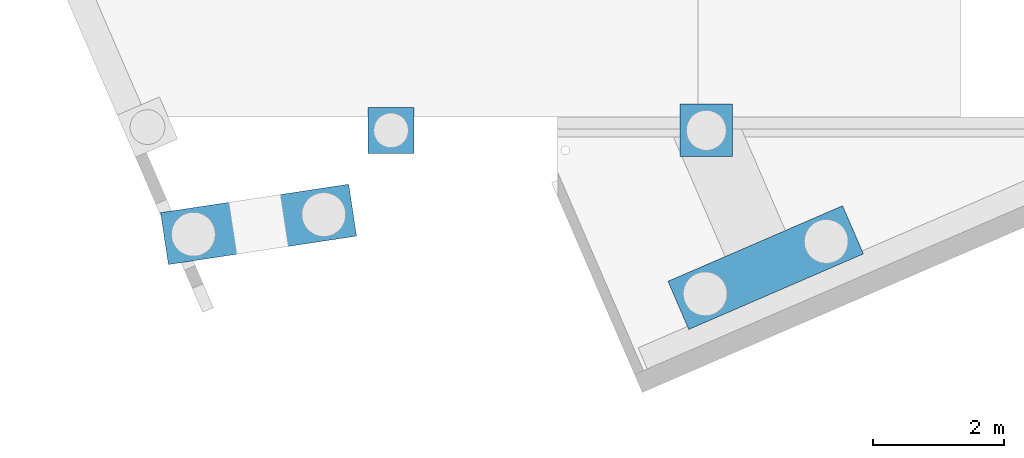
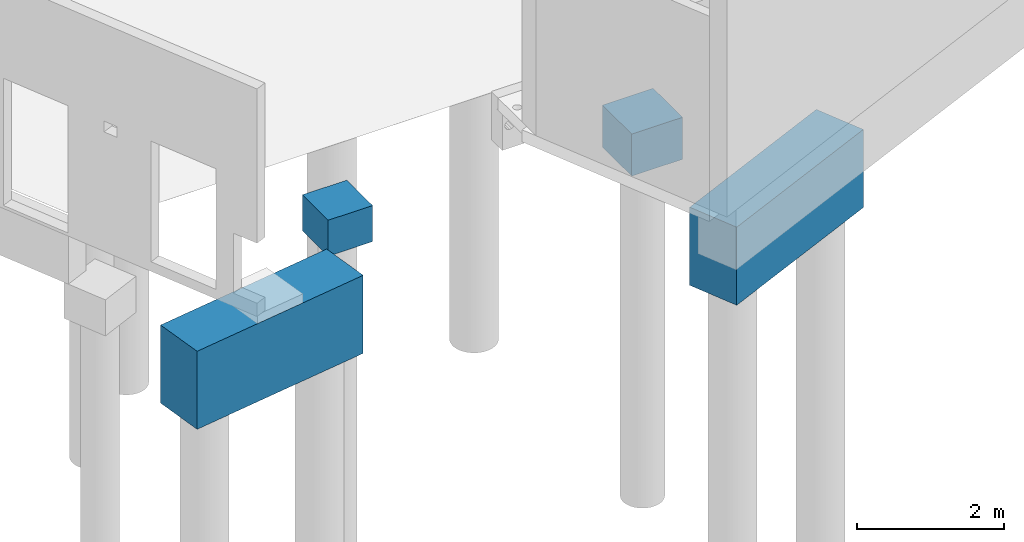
# One storey, part 9 of 29: 4 slabs.
"""IFC2X3 building model written with IfcOpenShell, lengths in centimetres."""

from ifc_helpers import new_model, entity, si_unit, converted_unit, derived_unit, direction, frame, origin, place, context, subcontext, project, spatial, faceted_brep, material, element, save


model = new_model("IFC2X3")

# Units and contexts
model_context = context("Model", 3, precision=0.001, world=origin(), true_north=direction((6.12303176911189e-17, 1.0)))
body_context = subcontext(model_context, "Body", "Model", "MODEL_VIEW")
ifc_project = project(units=[si_unit("LENGTHUNIT", "METRE", prefix="CENTI"), si_unit("AREAUNIT", "SQUARE_METRE"), si_unit("VOLUMEUNIT", "CUBIC_METRE"), converted_unit("PLANEANGLEUNIT", "DEGREE", entity("IfcRatioMeasure", 0.0174532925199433), si_unit("PLANEANGLEUNIT", "RADIAN"), dimensions=[0, 0, 0, 0, 0, 0, 0]), si_unit("MASSUNIT", "GRAM", prefix="KILO"), derived_unit("MASSDENSITYUNIT", [(si_unit("MASSUNIT", "GRAM", prefix="KILO"), 1), (si_unit("LENGTHUNIT", "METRE"), -3)]), si_unit("TIMEUNIT", "SECOND"), si_unit("FREQUENCYUNIT", "HERTZ"), si_unit("THERMODYNAMICTEMPERATUREUNIT", "DEGREE_CELSIUS"), derived_unit("THERMALTRANSMITTANCEUNIT", [(si_unit("MASSUNIT", "GRAM", prefix="KILO"), 1), (si_unit("THERMODYNAMICTEMPERATUREUNIT", "KELVIN"), -1), (si_unit("TIMEUNIT", "SECOND"), -3)]), derived_unit("VOLUMETRICFLOWRATEUNIT", [(si_unit("LENGTHUNIT", "METRE"), 3), (si_unit("TIMEUNIT", "SECOND"), -1)]), si_unit("ELECTRICCURRENTUNIT", "AMPERE"), si_unit("ELECTRICVOLTAGEUNIT", "VOLT"), si_unit("POWERUNIT", "WATT"), si_unit("FORCEUNIT", "NEWTON"), si_unit("ILLUMINANCEUNIT", "LUX"), si_unit("LUMINOUSFLUXUNIT", "LUMEN"), si_unit("LUMINOUSINTENSITYUNIT", "CANDELA"), derived_unit("USERDEFINED", [(si_unit("MASSUNIT", "GRAM", prefix="KILO"), -1), (si_unit("LENGTHUNIT", "METRE"), -2), (si_unit("TIMEUNIT", "SECOND"), 3), (si_unit("LUMINOUSFLUXUNIT", "LUMEN"), 1)]), derived_unit("LINEARVELOCITYUNIT", [(si_unit("LENGTHUNIT", "METRE"), 1), (si_unit("TIMEUNIT", "SECOND"), -1)]), si_unit("PRESSUREUNIT", "PASCAL"), derived_unit("USERDEFINED", [(si_unit("LENGTHUNIT", "METRE"), -2), (si_unit("MASSUNIT", "GRAM", prefix="KILO"), 1), (si_unit("TIMEUNIT", "SECOND"), -2)])], contexts=[model_context])

# Site, building, storey
site_placement = place(None, origin())
site = spatial("IfcSite", under=ifc_project, at=site_placement, Name="Default", CompositionType="ELEMENT")
building_placement = place(site_placement, origin())
building = spatial("IfcBuilding", under=site, at=building_placement, Name="CAGE 03", CompositionType="ELEMENT")
storey_placement = place(building_placement, frame((0.0, 0.0, -34.0)))
storey = spatial("IfcBuildingStorey", under=building, at=storey_placement, Name="+3.66", CompositionType="ELEMENT", Elevation=-34.0000000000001)

# Slabs
ifc_material = material(Name="Béton, C25/30")
slab_1_placement = place(storey_placement, frame((3333.1028982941, 3607.1249269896, -219.0)))
element("IfcSlab", 1, at=slab_1_placement, inside=storey, material=ifc_material, Name="M_Base-Rectangulaire:290x80x130ht", ObjectType="M_Base-Rectangulaire:290x80x130ht", PredefinedType="BASESLAB", context=body_context, shape_type="Brep", body=[
    faceted_brep([(103.819245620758, 94.8027417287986, 130.0), (0.0, 79.1003776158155, 130.0), (11.9637059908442, 0.0, 130.0), (115.782951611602, 15.7023641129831, 130.0), (194.883329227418, 27.6660701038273, 130.0), (298.702574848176, 43.3684342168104, 130.0), (286.738868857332, 122.468811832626, 130.0), (182.919623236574, 106.766447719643, 130.0), (11.9637059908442, 0.0, 0.0), (17.461699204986, 38.1603383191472, 0.0), (20.9384530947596, 33.208132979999, 0.0), (0.0, 79.1003776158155, 0.0), (24.4152069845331, 28.2559276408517, 0.0), (27.8919608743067, 23.3037223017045, 0.0), (31.3687147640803, 18.3515169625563, 0.0), (37.2743460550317, 17.0340670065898, 0.0), (43.1799773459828, 15.7166170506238, 0.0), (49.0856086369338, 14.3991670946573, 0.0), (54.9912399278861, 13.0817171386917, 0.0), (298.702574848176, 43.3684342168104, 0.0), (19.0873089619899, 45.4473337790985, 0.0), (20.7129187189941, 52.7343292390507, 0.0), (22.3385284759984, 60.0213246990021, 0.0), (23.9641382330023, 67.3083201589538, 0.0), (29.2160127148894, 70.3133109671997, 0.0), (34.4678871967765, 73.3183017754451, 0.0), (39.7197616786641, 76.3232925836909, 0.0), (44.9716361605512, 79.3282833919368, 0.0), (286.738868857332, 122.468811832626, 0.0), (82.5011768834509, 54.2496622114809, 0.0), (79.0244229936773, 59.2018675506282, 0.0), (75.5476691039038, 64.1540728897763, 0.0), (72.0709152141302, 69.1062782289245, 0.0), (68.5941613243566, 74.0584835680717, 0.0), (62.6885300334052, 75.3759335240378, 0.0), (56.7828987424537, 76.6933834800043, 0.0), (50.8772674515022, 78.0108334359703, 0.0), (60.2431144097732, 16.0867079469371, 0.0), (65.4949888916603, 19.091698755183, 0.0), (70.7468633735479, 22.0966895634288, 0.0), (75.998737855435, 25.1016803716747, 0.0), (77.6243476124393, 32.388675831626, 0.0), (79.2499573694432, 39.6756712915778, 0.0), (80.8755671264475, 46.9626667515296, 0.0), (31.3687147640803, 18.3515169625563, 5.0), (27.6608377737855, 24.8318377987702, 5.0), (23.9529607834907, 31.3121586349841, 5.0), (20.2450837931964, 37.7924794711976, 5.0), (16.5372068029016, 44.272800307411, 5.0), (18.3939396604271, 50.0316802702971, 5.0), (20.2506725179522, 55.7905602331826, 5.0), (22.1074053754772, 61.5494401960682, 5.0), (23.9641382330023, 67.3083201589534, 5.0), (29.2160127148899, 70.3133109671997, 5.0), (34.4678871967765, 73.3183017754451, 5.0), (38.1946207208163, 75.4506451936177, 5.0), (44.9716361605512, 79.3282833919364, 5.0), (52.5922589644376, 77.6282468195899, 5.0), (56.7828987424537, 76.6933834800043, 5.0), (62.6885300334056, 75.3759335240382, 5.0), (68.5941613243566, 74.0584835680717, 5.0), (72.302038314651, 67.5781627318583, 5.0), (76.0099153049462, 61.0978418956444, 5.0), (79.7177922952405, 54.6175210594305, 5.0), (83.4256692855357, 48.137200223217, 5.0), (81.5689364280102, 42.378320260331, 5.0), (79.7122035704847, 36.6194402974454, 5.0), (77.8554707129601, 30.8605603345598, 5.0), (75.998737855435, 25.1016803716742, 5.0), (70.7468633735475, 22.0966895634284, 5.0), (65.4949888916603, 19.091698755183, 5.0), (61.7682553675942, 16.9593553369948, 5.0), (54.9912399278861, 13.0817171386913, 5.0), (47.3706171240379, 14.7817537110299, 5.0), (43.1799773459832, 15.7166170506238, 5.0), (37.2743460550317, 17.0340670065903, 5.0)], [[[0, 1, 2, 3, 4, 5, 6, 7]], [[8, 9, 10]], [[9, 8, 11]], [[8, 10, 12]], [[8, 12, 13]], [[8, 13, 14]], [[8, 14, 15]], [[8, 15, 16]], [[8, 16, 17]], [[8, 17, 18]], [[18, 19, 8]], [[11, 20, 9]], [[11, 21, 20]], [[11, 22, 21]], [[11, 23, 22]], [[11, 24, 23]], [[11, 25, 24]], [[11, 26, 25]], [[11, 27, 26]], [[27, 11, 28]], [[29, 28, 19]], [[28, 29, 30]], [[28, 30, 31]], [[28, 31, 32]], [[28, 32, 33]], [[28, 33, 34]], [[28, 34, 35]], [[28, 35, 36]], [[28, 36, 27]], [[19, 18, 37]], [[19, 37, 38]], [[19, 38, 39]], [[19, 39, 40]], [[19, 40, 41]], [[19, 41, 42]], [[19, 42, 43]], [[19, 43, 29]], [[2, 1, 11, 8]], [[5, 4, 3, 2, 8, 19]], [[6, 5, 19, 28]], [[1, 0, 7, 6, 28, 11]], [[44, 45, 46, 47, 48, 49, 50, 51, 52, 53, 54, 55, 56, 57, 58, 59, 60, 61, 62, 63, 64, 65, 66, 67, 68, 69, 70, 71, 72, 73, 74, 75]], [[26, 27, 56, 55, 54, 53, 52, 23, 24, 25]], [[17, 16, 15, 14, 44, 75, 74, 73, 72, 18]], [[52, 51, 23]], [[51, 50, 22]], [[14, 13, 44]], [[46, 10, 47]], [[13, 45, 44]], [[9, 20, 48]], [[21, 22, 50]], [[51, 22, 23]], [[13, 12, 45]], [[45, 12, 46]], [[21, 49, 20]], [[9, 47, 10]], [[46, 12, 10]], [[48, 20, 49]], [[21, 50, 49]], [[9, 48, 47]], [[37, 18, 72, 71, 70, 69, 68, 40, 39, 38]], [[36, 35, 34, 33, 60, 59, 58, 57, 56, 27]], [[68, 67, 40]], [[67, 66, 41]], [[33, 32, 60]], [[62, 30, 63]], [[32, 61, 60]], [[29, 43, 64]], [[42, 41, 66]], [[67, 41, 40]], [[32, 31, 61]], [[61, 31, 62]], [[42, 65, 43]], [[29, 63, 30]], [[62, 31, 30]], [[64, 43, 65]], [[42, 66, 65]], [[29, 64, 63]]]),
])
slab_2_placement = place(storey_placement, frame((3649.36582014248, 3776.66066607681, -140.0)))
element("IfcSlab", 2, at=slab_2_placement, inside=storey, material=ifc_material, Name="M_Base-Rectangulaire:70x70x60ht", ObjectType="M_Base-Rectangulaire:70x70x60ht", PredefinedType="BASESLAB", context=body_context, shape_type="Brep", body=[
    faceted_brep([(70.0, 70.0, 60.0), (0.0, 70.0, 60.0), (0.0, 55.0, 60.0), (0.0, 25.0, 60.0), (0.0, 0.0, 60.0), (70.0, 0.0, 60.0), (0.0, 0.0, 0.0), (8.50000000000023, 35.0, 0.0), (10.6920097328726, 30.0766655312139, 0.0), (0.0, 70.0, 0.0), (12.8840194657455, 25.1533310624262, 0.0), (15.0760291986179, 20.2299965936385, 0.0), (17.2680389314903, 15.3066621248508, 0.0), (22.3935302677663, 13.6412890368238, 0.0), (27.5190216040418, 11.9759159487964, 0.0), (32.6445129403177, 10.3105428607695, 0.0), (37.7700042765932, 8.64516977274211, 0.0), (70.0, 0.0, 0.0), (11.0305248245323, 42.7881545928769, 0.0), (13.5610496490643, 50.5763091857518, 0.0), (18.2282861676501, 53.2709394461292, 0.0), (22.8955226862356, 55.9655697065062, 0.0), (27.5627592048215, 58.6601999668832, 0.0), (32.2299957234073, 61.3548302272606, 0.0), (70.0, 70.0, 0.0), (61.5000000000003, 35.0, 0.0), (59.3079902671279, 39.9233344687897, 0.0), (57.1159805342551, 44.846668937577, 0.0), (54.9239708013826, 49.7700034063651, 0.0), (52.7319610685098, 54.6933378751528, 0.0), (47.6064697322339, 56.3587109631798, 0.0), (42.4809783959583, 58.0240840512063, 0.0), (37.3554870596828, 59.6894571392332, 0.0), (42.4372407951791, 11.3398000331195, 0.0), (47.104477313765, 14.0344302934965, 0.0), (51.7717138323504, 16.7290605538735, 0.0), (56.4389503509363, 19.4236908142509, 0.0), (58.9694751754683, 27.2118454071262, 0.0), (8.50000000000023, 35.0, 5.0), (10.6920097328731, 39.9233344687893, 5.0), (12.8840194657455, 44.846668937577, 5.0), (15.0760291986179, 49.7700034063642, 5.0), (17.2680389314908, 54.6933378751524, 5.0), (22.3935302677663, 56.3587109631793, 5.0), (27.5190216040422, 58.0240840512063, 5.0), (32.6445129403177, 59.6894571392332, 5.0), (37.7700042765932, 61.3548302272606, 5.0), (42.4372407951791, 58.6601999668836, 5.0), (47.104477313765, 55.9655697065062, 5.0), (51.7717138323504, 53.2709394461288, 5.0), (56.4389503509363, 50.5763091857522, 5.0), (58.9694751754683, 42.7881545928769, 5.0), (61.5000000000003, 35.0, 5.0), (59.3079902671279, 30.0766655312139, 5.0), (57.1159805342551, 25.1533310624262, 5.0), (54.9239708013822, 20.2299965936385, 5.0), (52.7319610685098, 15.3066621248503, 5.0), (47.6064697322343, 13.6412890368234, 5.0), (42.4809783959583, 11.9759159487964, 5.0), (37.3554870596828, 10.3105428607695, 5.0), (32.2299957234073, 8.64516977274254, 5.0), (27.5627592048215, 11.33980003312, 5.0), (22.8955226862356, 14.0344302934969, 5.0), (18.2282861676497, 16.7290605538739, 5.0), (13.5610496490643, 19.4236908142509, 5.0), (11.0305248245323, 27.2118454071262, 5.0)], [[[0, 1, 2, 3, 4, 5]], [[6, 7, 8]], [[7, 6, 9]], [[6, 8, 10]], [[6, 10, 11]], [[6, 11, 12]], [[6, 12, 13]], [[6, 13, 14]], [[6, 14, 15]], [[6, 15, 16]], [[16, 17, 6]], [[9, 18, 7]], [[9, 19, 18]], [[9, 20, 19]], [[9, 21, 20]], [[9, 22, 21]], [[9, 23, 22]], [[23, 9, 24]], [[25, 24, 17]], [[24, 25, 26]], [[24, 26, 27]], [[24, 27, 28]], [[24, 28, 29]], [[24, 29, 30]], [[24, 30, 31]], [[24, 31, 32]], [[24, 32, 23]], [[17, 16, 33]], [[17, 33, 34]], [[17, 34, 35]], [[17, 35, 36]], [[17, 36, 37]], [[17, 37, 25]], [[2, 1, 9, 6, 4, 3]], [[5, 4, 6, 17]], [[0, 5, 17, 24]], [[1, 0, 24, 9]], [[38, 39, 40, 41, 42, 43, 44, 45, 46, 47, 48, 49, 50, 51, 52, 53, 54, 55, 56, 57, 58, 59, 60, 61, 62, 63, 64, 65]], [[11, 10, 64]], [[65, 8, 38]], [[65, 64, 10]], [[64, 63, 11]], [[37, 36, 54]], [[61, 60, 14]], [[38, 8, 7]], [[34, 57, 35]], [[13, 12, 62]], [[36, 35, 56]], [[37, 53, 25]], [[14, 60, 15]], [[62, 12, 63]], [[10, 8, 65]], [[59, 15, 60]], [[63, 12, 11]], [[58, 57, 34]], [[13, 61, 14]], [[56, 35, 57]], [[55, 54, 36, 56]], [[59, 16, 15]], [[33, 16, 58, 34]], [[13, 62, 61]], [[52, 25, 53]], [[59, 58, 16]], [[37, 54, 53]], [[28, 27, 50]], [[51, 26, 52]], [[51, 50, 27]], [[50, 49, 28]], [[48, 29, 49]], [[47, 30, 48]], [[52, 26, 25]], [[23, 45, 22]], [[47, 46, 31]], [[41, 40, 19, 42]], [[18, 39, 7]], [[31, 46, 32]], [[27, 26, 51]], [[45, 23, 32]], [[49, 29, 28]], [[44, 43, 21]], [[30, 29, 48]], [[18, 19, 40]], [[47, 31, 30]], [[38, 7, 39]], [[44, 22, 45]], [[42, 20, 43]], [[21, 43, 20]], [[42, 19, 20]], [[45, 32, 46]], [[44, 21, 22]], [[18, 40, 39]]]),
])
slab_3_placement = place(storey_placement, frame((4124.86582014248, 3771.66066607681, -170.0)))
element("IfcSlab", 3, at=slab_3_placement, inside=storey, material=ifc_material, Name="M_Base-Rectangulaire:80x80x70ht", ObjectType="M_Base-Rectangulaire:80x80x70ht", PredefinedType="BASESLAB", context=body_context, shape_type="Brep", body=[
    faceted_brep([(80.0, 80.0, 70.0), (0.0, 80.0, 70.0), (0.0, 0.0, 70.0), (80.0, 0.0, 70.0), (0.0, 0.0, 0.0), (9.50000000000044, 40.0, 0.0), (11.7333107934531, 34.6083107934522, 0.0), (0.0, 80.0, 0.0), (13.9666215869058, 29.2166215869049, 0.0), (16.1999323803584, 23.8249323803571, 0.0), (18.4332431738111, 18.4332431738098, 0.0), (23.824932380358, 16.1999323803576, 0.0), (29.2166215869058, 13.9666215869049, 0.0), (34.6083107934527, 11.7333107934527, 0.0), (40.0, 9.49999999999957, 0.0), (80.0, 0.0, 0.0), (11.7333107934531, 45.3916892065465, 0.0), (13.9666215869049, 50.7833784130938, 0.0), (16.1999323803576, 56.1750676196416, 0.0), (18.4332431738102, 61.5667568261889, 0.0), (23.824932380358, 63.8000676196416, 0.0), (29.2166215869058, 66.0333784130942, 0.0), (34.6083107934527, 68.2666892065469, 0.0), (40.0, 70.4999999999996, 0.0), (80.0, 80.0, 0.0), (70.5000000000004, 40.0, 0.0), (68.2666892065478, 45.3916892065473, 0.0), (66.0333784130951, 50.7833784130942, 0.0), (63.8000676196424, 56.1750676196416, 0.0), (61.5667568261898, 61.5667568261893, 0.0), (56.175067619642, 63.8000676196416, 0.0), (50.7833784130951, 66.0333784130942, 0.0), (45.3916892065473, 68.2666892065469, 0.0), (45.3916892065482, 11.7333107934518, 0.0), (50.7833784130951, 13.9666215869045, 0.0), (56.175067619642, 16.1999323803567, 0.0), (61.5667568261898, 18.4332431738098, 0.0), (63.8000676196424, 23.8249323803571, 0.0), (66.0333784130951, 29.2166215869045, 0.0), (68.2666892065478, 34.6083107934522, 0.0), (40.0, 70.4999999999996, 5.0), (45.3916892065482, 68.2666892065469, 5.0), (50.7833784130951, 66.0333784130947, 5.0), (56.1750676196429, 63.800067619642, 5.0), (61.5667568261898, 61.5667568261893, 5.0), (64.8147856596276, 53.7253215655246, 5.0), (67.657392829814, 46.8626607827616, 5.0), (70.5000000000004, 40.0, 5.0), (67.657392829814, 33.1373392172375, 5.0), (66.0333784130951, 29.2166215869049, 5.0), (63.8000676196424, 23.8249323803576, 5.0), (61.5667568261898, 18.4332431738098, 5.0), (56.175067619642, 16.1999323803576, 5.0), (50.7833784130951, 13.9666215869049, 5.0), (45.3916892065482, 11.7333107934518, 5.0), (40.0, 9.49999999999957, 5.0), (34.6083107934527, 11.7333107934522, 5.0), (29.2166215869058, 13.9666215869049, 5.0), (23.8249323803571, 16.1999323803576, 5.0), (18.4332431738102, 18.4332431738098, 5.0), (15.1852143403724, 26.2746784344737, 5.0), (12.3426071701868, 33.1373392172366, 5.0), (9.50000000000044, 40.0, 5.0), (12.3426071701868, 46.8626607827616, 5.0), (13.9666215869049, 50.7833784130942, 5.0), (16.1999323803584, 56.175067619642, 5.0), (18.4332431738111, 61.5667568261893, 5.0), (23.824932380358, 63.8000676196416, 5.0), (29.2166215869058, 66.0333784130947, 5.0), (34.6083107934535, 68.2666892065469, 5.0)], [[[0, 1, 2, 3]], [[4, 5, 6]], [[5, 4, 7]], [[4, 6, 8]], [[4, 8, 9]], [[4, 9, 10]], [[4, 10, 11]], [[4, 11, 12]], [[4, 12, 13]], [[4, 13, 14]], [[14, 15, 4]], [[7, 16, 5]], [[7, 17, 16]], [[7, 18, 17]], [[7, 19, 18]], [[7, 20, 19]], [[7, 21, 20]], [[7, 22, 21]], [[7, 23, 22]], [[23, 7, 24]], [[25, 24, 15]], [[24, 25, 26]], [[24, 26, 27]], [[24, 27, 28]], [[24, 28, 29]], [[24, 29, 30]], [[24, 30, 31]], [[24, 31, 32]], [[24, 32, 23]], [[15, 14, 33]], [[15, 33, 34]], [[15, 34, 35]], [[15, 35, 36]], [[15, 36, 37]], [[15, 37, 38]], [[15, 38, 39]], [[15, 39, 25]], [[2, 1, 7, 4]], [[3, 2, 4, 15]], [[0, 3, 15, 24]], [[1, 0, 24, 7]], [[40, 41, 42, 43, 44, 45, 46, 47, 48, 49, 50, 51, 52, 53, 54, 55, 56, 57, 58, 59, 60, 61, 62, 63, 64, 65, 66, 67, 68, 69]], [[10, 59, 58, 57, 56, 55, 14, 13, 12, 11]], [[39, 38, 37, 36, 51, 50, 49, 48, 47, 25]], [[10, 9, 8, 6, 5, 62, 61, 60, 59]], [[33, 14, 55, 54, 53, 52, 51, 36, 35, 34]], [[29, 44, 43, 42, 41, 40, 23, 32, 31, 30]], [[16, 17, 18, 19, 66, 65, 64, 63, 62, 5]], [[29, 28, 27, 26, 25, 47, 46, 45, 44]], [[22, 23, 40, 69, 68, 67, 66, 19, 20, 21]]]),
])
slab_4_placement = place(storey_placement, frame((4106.41364435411, 3508.18909242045, -230.0)))
element("IfcSlab", 4, at=slab_4_placement, inside=storey, material=ifc_material, Name="M_Base-Rectangulaire:290x80x130ht", ObjectType="M_Base-Rectangulaire:290x80x130ht", PredefinedType="BASESLAB", context=body_context, shape_type="Brep", body=[
    faceted_brep([(266.154070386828, 188.582616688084, 130.0), (0.0, 73.4218125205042, 130.0), (31.7684977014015, 0.0, 130.0), (297.922568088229, 115.16080416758, 130.0), (31.7684977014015, 0.0, 0.0), (72.8082681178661, 24.9953548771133, 0.0), (297.922568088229, 115.16080416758, 0.0), (65.3477589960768, 24.7060219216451, 0.0), (57.8872498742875, 24.4166889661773, 0.0), (50.4267407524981, 24.1273560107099, 0.0), (42.9662316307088, 23.8380230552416, 0.0), (38.7196107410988, 28.1482859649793, 0.0), (34.472989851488, 32.4585488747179, 0.0), (30.226368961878, 36.7688117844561, 0.0), (25.979748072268, 41.0790746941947, 0.0), (0.0, 73.4218125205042, 0.0), (25.7452627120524, 47.125327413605, 0.0), (25.5107773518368, 53.1715801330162, 0.0), (25.2762919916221, 59.2178328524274, 0.0), (25.0418066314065, 65.2640855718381, 0.0), (28.9418539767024, 69.8902920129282, 0.0), (32.8419013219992, 74.5164984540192, 0.0), (36.7419486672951, 79.1427048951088, 0.0), (40.6419960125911, 83.7689113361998, 0.0), (225.114299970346, 163.587261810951, 0.0), (266.154070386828, 188.582616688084, 0.0), (271.942820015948, 147.503541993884, 0.0), (267.696199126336, 151.813804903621, 0.0), (232.574809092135, 163.876594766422, 0.0), (240.035318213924, 164.165927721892, 0.0), (247.495827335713, 164.455260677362, 0.0), (254.956336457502, 164.744593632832, 0.0), (263.449578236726, 156.124067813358, 0.0), (259.202957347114, 160.434330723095, 0.0), (48.1025051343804, 84.0582442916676, 0.0), (55.5630142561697, 84.3475772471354, 0.0), (63.0235233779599, 84.6369102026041, 0.0), (70.4840324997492, 84.926243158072, 0.0), (221.214252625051, 158.96105536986, 0.0), (217.314205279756, 154.334848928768, 0.0), (213.414157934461, 149.708642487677, 0.0), (209.514110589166, 145.082436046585, 0.0), (74.7306533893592, 80.6159802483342, 0.0), (78.9772742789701, 76.3057173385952, 0.0), (83.22389516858, 71.9954544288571, 0.0), (87.47051605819, 67.6851915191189, 0.0), (209.748595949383, 139.036183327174, 0.0), (209.983081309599, 132.989930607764, 0.0), (210.217566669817, 126.943677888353, 0.0), (210.452052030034, 120.897425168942, 0.0), (214.698672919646, 116.587162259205, 0.0), (218.945293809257, 112.276899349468, 0.0), (223.191914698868, 107.96663643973, 0.0), (227.43853558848, 103.656373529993, 0.0), (76.7083154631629, 29.6215613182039, 0.0), (234.899044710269, 103.945706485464, 0.0), (87.7050014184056, 61.6389387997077, 0.0), (87.9394867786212, 55.5926860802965, 0.0), (88.173972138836, 49.5464333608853, 0.0), (88.4084574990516, 43.500180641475, 0.0), (80.6083628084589, 34.247767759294, 0.0), (84.5084101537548, 38.8739742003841, 0.0), (242.359553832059, 104.235039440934, 0.0), (249.820062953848, 104.524372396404, 0.0), (257.280572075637, 104.813705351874, 0.0), (261.180619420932, 109.439911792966, 0.0), (265.080666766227, 114.066118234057, 0.0), (268.980714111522, 118.692324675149, 0.0), (272.880761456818, 123.31853111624, 0.0), (272.6462760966, 129.364783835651, 0.0), (272.411790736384, 135.411036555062, 0.0), (272.177305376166, 141.457289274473, 0.0), (88.4084574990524, 43.500180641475, 5.0), (83.089997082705, 38.2602485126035, 5.0), (77.7715366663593, 33.020316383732, 5.0), (72.4530762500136, 27.78038425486, 5.0), (67.1346158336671, 22.5404521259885, 5.0), (61.0925197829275, 22.8648448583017, 5.0), (55.0504237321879, 23.1892375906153, 5.0), (49.0083276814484, 23.5136303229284, 5.0), (42.9662316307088, 23.8380230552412, 5.0), (38.719610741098, 28.1482859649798, 5.0), (34.472989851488, 32.4585488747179, 5.0), (31.4595849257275, 35.517114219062, 5.0), (25.979748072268, 41.0790746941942, 5.0), (25.6771683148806, 48.8811552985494, 5.0), (25.5107773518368, 53.1715801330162, 5.0), (25.2762919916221, 59.2178328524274, 5.0), (25.0418066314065, 65.2640855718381, 5.0), (30.360267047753, 70.5040177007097, 5.0), (35.6787274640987, 75.7439498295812, 5.0), (40.9971878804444, 80.9838819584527, 5.0), (46.315648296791, 86.2238140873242, 5.0), (52.3577443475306, 85.8994213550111, 5.0), (58.3998403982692, 85.5750286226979, 5.0), (64.4419364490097, 85.2506358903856, 5.0), (70.4840324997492, 84.926243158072, 5.0), (74.7306533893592, 80.6159802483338, 5.0), (78.9772742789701, 76.3057173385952, 5.0), (81.9906792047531, 73.2471519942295, 5.0), (87.47051605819, 67.6851915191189, 5.0), (87.7730958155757, 59.8831109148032, 5.0), (87.9394867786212, 55.592686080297, 5.0), (88.173972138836, 49.5464333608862, 5.0), (272.880761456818, 123.31853111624, 5.0), (267.562301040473, 118.078598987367, 5.0), (262.243840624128, 112.838666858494, 5.0), (256.925380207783, 107.598734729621, 5.0), (251.606919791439, 102.358802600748, 5.0), (245.564823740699, 102.683195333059, 5.0), (239.522727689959, 103.007588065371, 5.0), (233.48063163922, 103.331980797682, 5.0), (227.438535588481, 103.656373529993, 5.0), (223.191914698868, 107.966636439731, 5.0), (218.945293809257, 112.276899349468, 5.0), (215.931888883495, 115.335464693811, 5.0), (210.452052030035, 120.897425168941, 5.0), (210.149472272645, 128.699505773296, 5.0), (209.983081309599, 132.989930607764, 5.0), (209.748595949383, 139.036183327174, 5.0), (209.514110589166, 145.082436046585, 5.0), (214.83257100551, 150.322368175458, 5.0), (220.151031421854, 155.562300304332, 5.0), (225.469491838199, 160.802232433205, 5.0), (230.787952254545, 166.042164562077, 5.0), (236.830048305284, 165.717771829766, 5.0), (242.872144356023, 165.393379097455, 5.0), (248.914240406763, 165.068986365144, 5.0), (254.956336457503, 164.744593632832, 5.0), (259.202957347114, 160.434330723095, 5.0), (263.449578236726, 156.124067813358, 5.0), (266.46298316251, 153.065502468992, 5.0), (271.942820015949, 147.503541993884, 5.0), (272.245399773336, 139.701461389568, 5.0), (272.411790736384, 135.411036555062, 5.0), (272.6462760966, 129.364783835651, 5.0)], [[[0, 1, 2, 3]], [[4, 5, 6]], [[4, 7, 5]], [[4, 8, 7]], [[4, 9, 8]], [[4, 10, 9]], [[4, 11, 10]], [[4, 12, 11]], [[4, 13, 12]], [[4, 14, 13]], [[14, 4, 15]], [[15, 16, 14]], [[15, 17, 16]], [[15, 18, 17]], [[15, 19, 18]], [[15, 20, 19]], [[15, 21, 20]], [[15, 22, 21]], [[15, 23, 22]], [[23, 15, 24]], [[25, 24, 15]], [[26, 25, 6]], [[25, 26, 27]], [[25, 28, 24]], [[25, 29, 28]], [[25, 30, 29]], [[25, 31, 30]], [[25, 27, 32]], [[25, 32, 33]], [[25, 33, 31]], [[24, 34, 23]], [[24, 35, 34]], [[24, 36, 35]], [[24, 37, 36]], [[37, 24, 38]], [[37, 38, 39]], [[37, 39, 40]], [[37, 40, 41]], [[41, 42, 37]], [[41, 43, 42]], [[41, 44, 43]], [[41, 45, 44]], [[45, 41, 46]], [[45, 46, 47]], [[45, 47, 48]], [[45, 48, 49]], [[45, 49, 50]], [[45, 50, 51]], [[45, 51, 52]], [[45, 52, 53]], [[53, 5, 54]], [[5, 53, 55]], [[53, 56, 45]], [[53, 57, 56]], [[53, 58, 57]], [[53, 59, 58]], [[53, 54, 60]], [[53, 60, 61]], [[53, 61, 59]], [[5, 55, 62]], [[5, 62, 63]], [[5, 63, 64]], [[6, 64, 65]], [[64, 6, 5]], [[6, 65, 66]], [[6, 66, 67]], [[6, 67, 68]], [[6, 68, 69]], [[6, 69, 70]], [[6, 70, 71]], [[6, 71, 26]], [[2, 1, 15, 4]], [[3, 2, 4, 6]], [[0, 3, 6, 25]], [[1, 0, 25, 15]], [[72, 73, 74, 75, 76, 77, 78, 79, 80, 81, 82, 83, 84, 85, 86, 87, 88, 89, 90, 91, 92, 93, 94, 95, 96, 97, 98, 99, 100, 101, 102, 103]], [[104, 105, 106, 107, 108, 109, 110, 111, 112, 113, 114, 115, 116, 117, 118, 119, 120, 121, 122, 123, 124, 125, 126, 127, 128, 129, 130, 131, 132, 133, 134, 135]], [[13, 14, 84, 83, 82, 81, 80, 10, 11, 12]], [[56, 57, 58, 59, 72, 103, 102, 101, 100, 45]], [[80, 79, 10]], [[79, 78, 9]], [[59, 61, 72]], [[74, 54, 75]], [[61, 73, 72]], [[5, 7, 76]], [[8, 9, 78]], [[79, 9, 10]], [[61, 60, 73]], [[73, 60, 74]], [[8, 77, 7]], [[5, 75, 54]], [[74, 60, 54]], [[76, 7, 77]], [[8, 78, 77]], [[5, 76, 75]], [[44, 45, 100, 99, 98, 97, 96, 37, 42, 43]], [[16, 17, 18, 19, 88, 87, 86, 85, 84, 14]], [[96, 95, 37]], [[95, 94, 36]], [[19, 20, 88]], [[90, 22, 91]], [[20, 89, 88]], [[23, 34, 92]], [[35, 36, 94]], [[95, 36, 37]], [[20, 21, 89]], [[89, 21, 90]], [[35, 93, 34]], [[23, 91, 22]], [[90, 21, 22]], [[92, 34, 93]], [[35, 94, 93]], [[23, 92, 91]], [[50, 49, 116, 115, 114, 113, 112, 53, 52, 51]], [[71, 70, 69, 68, 104, 135, 134, 133, 132, 26]], [[112, 111, 53]], [[111, 110, 55]], [[68, 67, 104]], [[106, 65, 107]], [[67, 105, 104]], [[64, 63, 108]], [[62, 55, 110]], [[111, 55, 53]], [[67, 66, 105]], [[105, 66, 106]], [[62, 109, 63]], [[64, 107, 65]], [[106, 66, 65]], [[108, 63, 109]], [[62, 110, 109]], [[64, 108, 107]], [[27, 26, 132, 131, 130, 129, 128, 31, 33, 32]], [[48, 47, 46, 41, 120, 119, 118, 117, 116, 49]], [[128, 127, 31]], [[127, 126, 30]], [[41, 40, 120]], [[122, 38, 123]], [[40, 121, 120]], [[24, 28, 124]], [[29, 30, 126]], [[127, 30, 31]], [[40, 39, 121]], [[121, 39, 122]], [[29, 125, 28]], [[24, 123, 38]], [[122, 39, 38]], [[124, 28, 125]], [[29, 126, 125]], [[24, 124, 123]]]),
])

save(model, "model.ifc")
